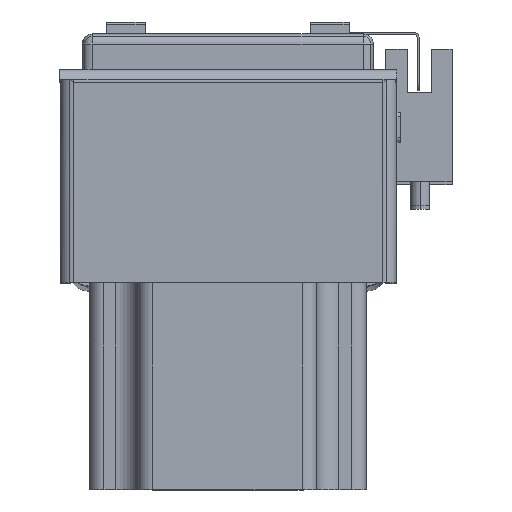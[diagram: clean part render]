
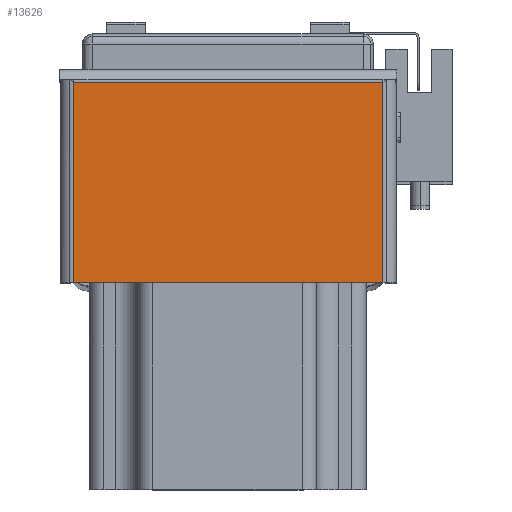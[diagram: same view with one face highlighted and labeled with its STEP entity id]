
A CAD part, top view. The second image highlights one B-rep face of the part: STEP entity #13626.
In plain terms, the highlighted planar face has unit normal (0, 0, 1) as drawn and (1, 0, 0) by its records, which use the part's own axes.
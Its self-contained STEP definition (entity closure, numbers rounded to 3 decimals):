
#11323 = VERTEX_POINT ( 'NONE', #31036 ) ;
#11342 = VERTEX_POINT ( 'NONE', #31017 ) ;
#11351 = VERTEX_POINT ( 'NONE', #31059 ) ;
#11400 = VERTEX_POINT ( 'NONE', #31119 ) ;
#13626 = ADVANCED_FACE ( 'NONE', ( #29810 ), #32196, .F. ) ;
#18019 = EDGE_CURVE ( 'NONE', #11400, #11351, #25335, .T. ) ;
#18048 = EDGE_CURVE ( 'NONE', #11400, #11323, #25407, .T. ) ;
#18049 = EDGE_CURVE ( 'NONE', #11323, #11342, #25380, .T. ) ;
#18067 = EDGE_CURVE ( 'NONE', #11342, #11351, #25443, .T. ) ;
#25335 = LINE ( 'NONE', #25806, #25338 ) ;
#25338 = VECTOR ( 'NONE', #25808, 1000. ) ;
#25380 = LINE ( 'NONE', #25884, #25381 ) ;
#25381 = VECTOR ( 'NONE', #25894, 1000. ) ;
#25387 = VECTOR ( 'NONE', #25889, 1000. ) ;
#25407 = LINE ( 'NONE', #25926, #25387 ) ;
#25443 = LINE ( 'NONE', #26009, #25444 ) ;
#25444 = VECTOR ( 'NONE', #25974, 1000. ) ;
#25806 = CARTESIAN_POINT ( 'NONE',  ( 2., 42., -31.863 ) ) ;
#25808 = DIRECTION ( 'NONE',  ( 0., -1., 0. ) ) ;
#25884 = CARTESIAN_POINT ( 'NONE',  ( 2., 42., 31.863 ) ) ;
#25889 = DIRECTION ( 'NONE',  ( 0., 0., 1. ) ) ;
#25894 = DIRECTION ( 'NONE',  ( 0., -1., 0. ) ) ;
#25926 = CARTESIAN_POINT ( 'NONE',  ( 2., 41.263, -31.863 ) ) ;
#25974 = DIRECTION ( 'NONE',  ( 0., 0., -1. ) ) ;
#26009 = CARTESIAN_POINT ( 'NONE',  ( 2., 0., -32.6 ) ) ;
#29668 = EDGE_LOOP ( 'NONE', ( #35341, #35339, #35359, #35345 ) ) ;
#29810 = FACE_OUTER_BOUND ( 'NONE', #29668, .T. ) ;
#31017 = CARTESIAN_POINT ( 'NONE',  ( 2., 0., 31.863 ) ) ;
#31036 = CARTESIAN_POINT ( 'NONE',  ( 2., 41.263, 31.863 ) ) ;
#31059 = CARTESIAN_POINT ( 'NONE',  ( 2., 0., -31.863 ) ) ;
#31119 = CARTESIAN_POINT ( 'NONE',  ( 2., 41.263, -31.863 ) ) ;
#32152 = DIRECTION ( 'NONE',  ( 0., 0., 1. ) ) ;
#32162 = DIRECTION ( 'NONE',  ( -1., 0., 0. ) ) ;
#32190 = CARTESIAN_POINT ( 'NONE',  ( 2., 42., -32.6 ) ) ;
#32196 = PLANE ( 'NONE',  #32796 ) ;
#32796 = AXIS2_PLACEMENT_3D ( 'NONE', #32190, #32162, #32152 ) ;
#35339 = ORIENTED_EDGE ( 'NONE', *, *, #18049, .T. ) ;
#35341 = ORIENTED_EDGE ( 'NONE', *, *, #18048, .T. ) ;
#35345 = ORIENTED_EDGE ( 'NONE', *, *, #18019, .F. ) ;
#35359 = ORIENTED_EDGE ( 'NONE', *, *, #18067, .T. ) ;
